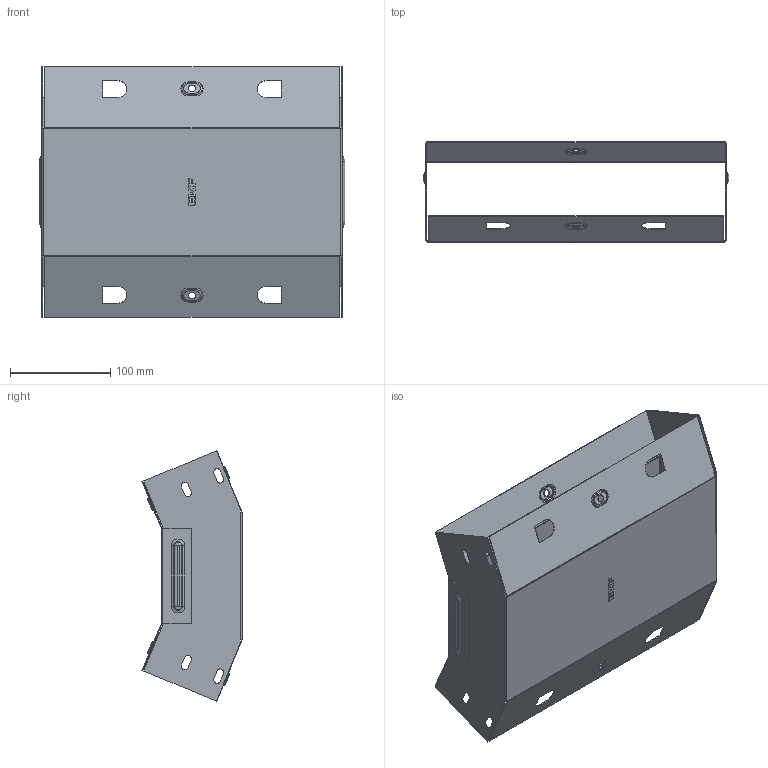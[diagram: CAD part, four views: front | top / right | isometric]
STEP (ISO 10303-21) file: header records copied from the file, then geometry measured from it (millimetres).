
FILE_DESCRIPTION (( 'STEP AP214' ), '1' );
FILE_NAME ('vi4580300_捘.STEP', '2019-06-10T08:31:33', ( '砐錪賧瘔蠈錪 Windows' ), ( '' ), 'SwSTEP 2.0', 'SolidWorks 2018', '' );
FILE_SCHEMA (( 'AUTOMOTIVE_DESIGN' ));
Length unit declared in the file: millimetre
Products named in the file (1): vi4580300_捘
Bounding box: 305.6 x 99.93 x 250.25 mm (x, y, z)
Volume: 140148.1 mm3; surface area: 353282.4 mm2
Topology: 2 solids, 2 shells, 452 faces, 1164 edges, 744 vertices
Faces by surface type: plane 242, cylinder 128, torus 64, bspline 18
Entity records: 14672 total; most frequent: CARTESIAN_POINT 3380, DIRECTION 2350, ORIENTED_EDGE 2328, EDGE_CURVE 1164, AXIS2_PLACEMENT_3D 787, VECTOR 776, LINE 776, VERTEX_POINT 744
